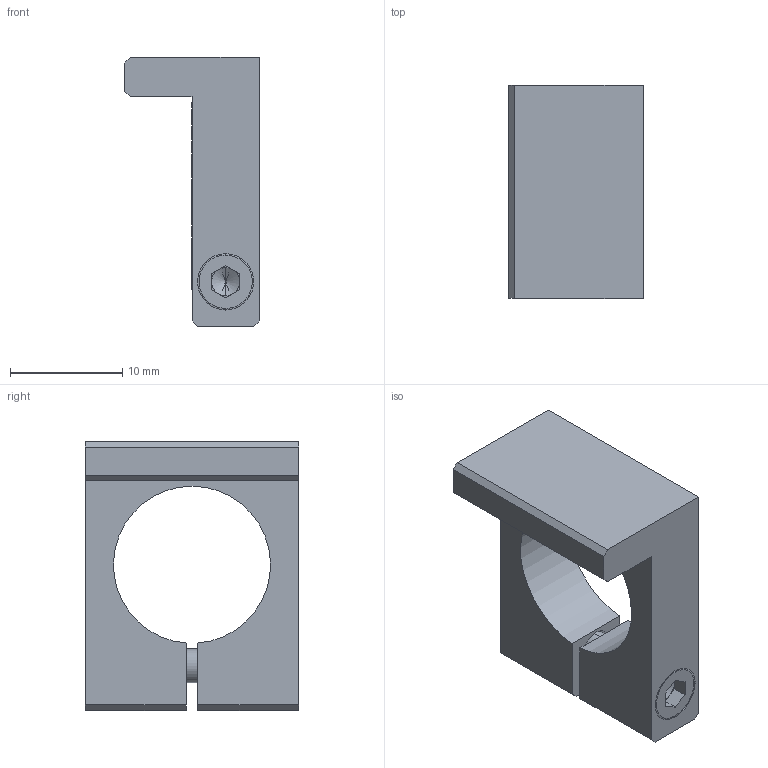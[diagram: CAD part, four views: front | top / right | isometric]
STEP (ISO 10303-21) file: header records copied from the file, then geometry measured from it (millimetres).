
FILE_DESCRIPTION (( 'STEP AP214' ), '1' );
FILE_NAME ('GP2-14.STEP', '2019-11-13T03:14:08', ( '微软用户' ), ( '微软中国' ), 'SwSTEP 2.0', 'SolidWorks 2016', '' );
FILE_SCHEMA (( 'AUTOMOTIVE_DESIGN' ));
Length unit declared in the file: millimetre
Products named in the file (1): GP2-14
Bounding box: 12 x 19 x 24 mm (x, y, z)
Volume: 2146.6 mm3; surface area: 2108.8 mm2
Topology: 2 solids, 2 shells, 51 faces, 125 edges, 79 vertices
Faces by surface type: plane 33, cylinder 12, cone 4, bspline 2
Entity records: 2113 total; most frequent: CARTESIAN_POINT 296, DIRECTION 253, ORIENTED_EDGE 246, EDGE_CURVE 123, VECTOR 85, LINE 85, AXIS2_PLACEMENT_3D 84, VERTEX_POINT 79
